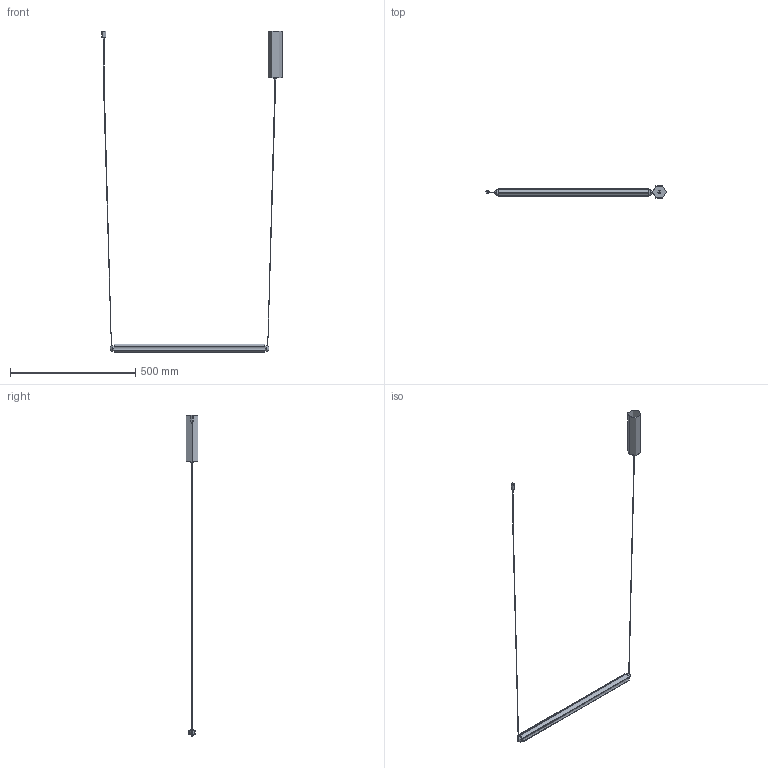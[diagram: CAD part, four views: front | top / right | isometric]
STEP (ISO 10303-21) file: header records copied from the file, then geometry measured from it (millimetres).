
FILE_DESCRIPTION(/* description */ (''),/* implementation_level */ '2;1');
FILE_NAME(/* name */ '64612-111_3d',/* time_stamp */ '2026-05-25T12:57:58+02:00',/* author */ (''),/* organization */ (''),/* preprocessor_version */ 'ST-DEVELOPER v19.2',/* originating_system */ 'Rhino 8.30',/* authorisation */ '');
FILE_SCHEMA (('CONFIG_CONTROL_DESIGN'));
Length unit declared in the file: millimetre
Products named in the file (1): Document
Bounding box: 719.41 x 47.63 x 1280.46 mm (x, y, z)
Volume: 259709.3 mm3; surface area: 191313.6 mm2
Topology: 4 solids, 10 shells, 124 faces, 336 edges, 220 vertices
Faces by surface type: cylinder 69, plane 46, bspline 9
Entity records: 9140 total; most frequent: CARTESIAN_POINT 6237, ORIENTED_EDGE 644, DIRECTION 386, EDGE_CURVE 329, AXIS2_PLACEMENT_3D 250, VERTEX_POINT 216, B_SPLINE_CURVE_WITH_KNOTS 186, EDGE_LOOP 140
